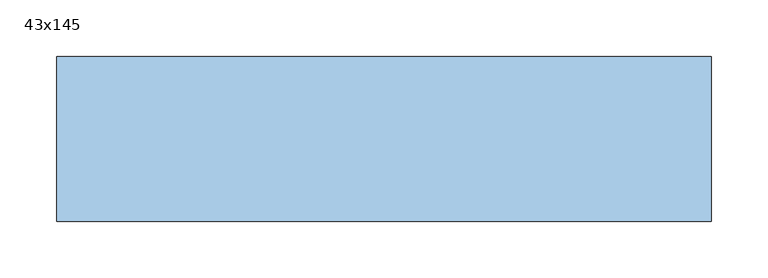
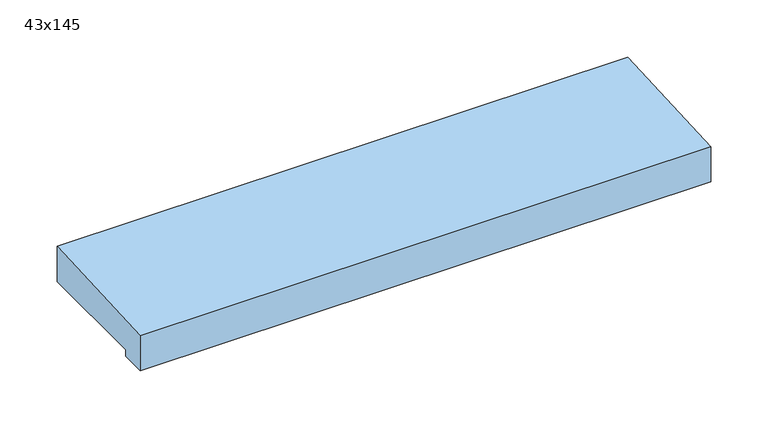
"""IFC4 building model written with IfcOpenShell, lengths in millimetres: window geometry, NLRS_30_WIN_spouwlat_bovendorpel-zonder-bovenrek_sh_gen_TOBA-JM : 43x145."""

from ifc_helpers import new_model, si_unit, frame, origin, place, context, project, spatial, polyline, outline, extrude, source, transform, mapped, element, save


def window_43x145_54d50d98(model_context):
    return source(origin(), model_context, "Body", "SweptSolid", [
        extrude(outline(polyline([(145.0, 0.0), (25.0, 0.0), (25.0, -7.0), (0.0, -7.0), (0.0, 30.2068143), (145.0, 37.8059423), (145.0, 0.0)])), frame((-288.0, 0.0, 0.0), z_axis=(1.0, 0.0, 0.0), x_axis=(0.0, 1.0, 0.0)), (0.0, 0.0, 1.0), 576.0),
    ])


if __name__ == "__main__":
    model = new_model("IFC4")
    model_context = context("Model", 3, world=origin())
    ifc_project = project(units=[si_unit("LENGTHUNIT", "METRE", prefix="MILLI")], contexts=[model_context])
    site = spatial("IfcSite", under=ifc_project)
    building = spatial("IfcBuilding", under=site)
    placement = place(None, origin())
    window_43x145_shape = window_43x145_54d50d98(model_context)
    element("IfcWindow", 1, ObjectType="NLRS_30_WIN_spouwlat_bovendorpel-zonder-bovenrek_sh_gen_TOBA-JM : 43x145", at=placement, inside=building, context=model_context, shape_type="MappedRepresentation", body=[
        mapped(window_43x145_shape, transform((0.0, 0.0, 0.0), x_axis=(1.0, 0.0, 0.0), y_axis=(0.0, 1.0, 0.0), z_axis=(0.0, 0.0, 1.0))),
    ])
    save(model, "model.ifc")
